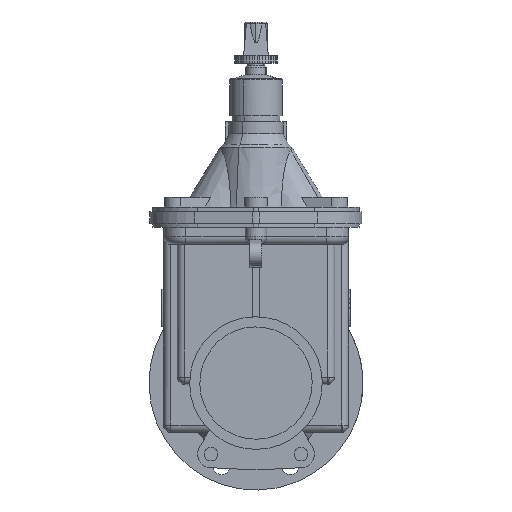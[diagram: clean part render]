
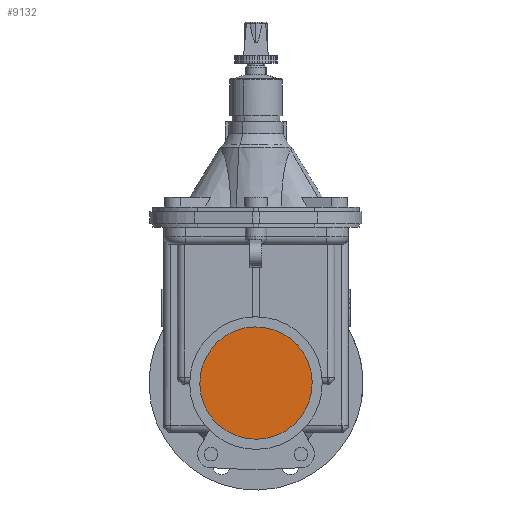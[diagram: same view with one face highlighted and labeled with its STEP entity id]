
A CAD part, left-side view. The second image highlights one B-rep face of the part: STEP entity #9132.
In plain terms, the highlighted planar face has unit normal (-1, 0, 0).
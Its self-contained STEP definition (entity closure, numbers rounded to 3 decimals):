
#8871=AXIS2_PLACEMENT_3D('Circle Axis2P3D',#8869,#8870,$) ;
#8891=AXIS2_PLACEMENT_3D('Circle Axis2P3D',#8889,#8890,$) ;
#9126=AXIS2_PLACEMENT_3D('Plane Axis2P3D',#9123,#9124,#9125) ;
#8866=CARTESIAN_POINT('Vertex',(-69.5,-65.819,-35.957)) ;
#8869=CARTESIAN_POINT('Axis2P3D Location',(-69.5,0.,0.)) ;
#8873=CARTESIAN_POINT('Vertex',(-69.5,65.819,35.957)) ;
#8889=CARTESIAN_POINT('Axis2P3D Location',(-69.5,0.,0.)) ;
#9123=CARTESIAN_POINT('Axis2P3D Location',(-69.5,0.,0.)) ;
#8870=DIRECTION('Axis2P3D Direction',(1.,0.,-0.)) ;
#8890=DIRECTION('Axis2P3D Direction',(1.,0.,-0.)) ;
#9124=DIRECTION('Axis2P3D Direction',(1.,0.,0.)) ;
#9125=DIRECTION('Axis2P3D XDirection',(0.,1.,0.)) ;
#9129=ORIENTED_EDGE('',*,*,#8893,.F.) ;
#9130=ORIENTED_EDGE('',*,*,#8875,.F.) ;
#9132=ADVANCED_FACE('Schieber-DN150-PN16',(#9131),#9127,.F.) ;
#8872=CIRCLE('generated circle',#8871,75.) ;
#8892=CIRCLE('generated circle',#8891,75.) ;
#8875=EDGE_CURVE('',#8867,#8874,#8872,.T.) ;
#8893=EDGE_CURVE('',#8874,#8867,#8892,.T.) ;
#9128=EDGE_LOOP('',(#9129,#9130)) ;
#9131=FACE_OUTER_BOUND('',#9128,.T.) ;
#9127=PLANE('',#9126) ;
#8867=VERTEX_POINT('',#8866) ;
#8874=VERTEX_POINT('',#8873) ;
